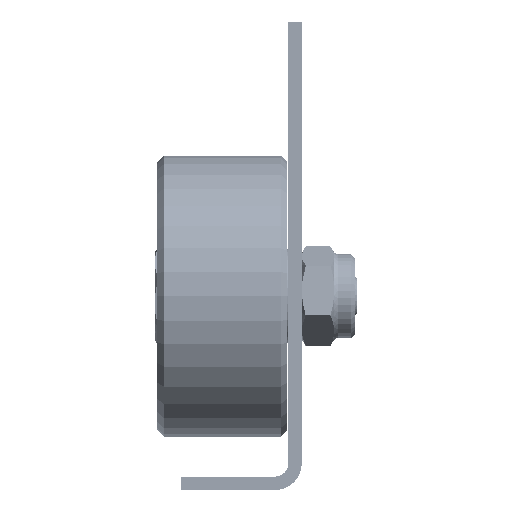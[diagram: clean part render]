
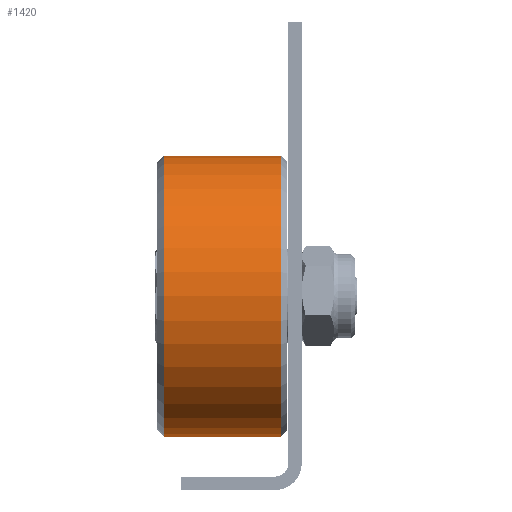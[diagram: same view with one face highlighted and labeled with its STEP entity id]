
A CAD part, front view. The second image highlights one B-rep face of the part: STEP entity #1420.
In plain terms, the highlighted cylindrical face has radius 21 mm (diameter 42 mm), a full revolution.
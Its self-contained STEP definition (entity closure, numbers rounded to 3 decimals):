
#1420 = ADVANCED_FACE( '', ( #2434, #2435 ), #2436, .T. );
#2434 = FACE_OUTER_BOUND( '', #3640, .T. );
#2435 = FACE_OUTER_BOUND( '', #3641, .T. );
#2436 = CYLINDRICAL_SURFACE( '', #3642, 21. );
#3640 = EDGE_LOOP( '', ( #4857 ) );
#3641 = EDGE_LOOP( '', ( #4858 ) );
#3642 = AXIS2_PLACEMENT_3D( '', #4859, #4860, #4861 );
#4857 = ORIENTED_EDGE( '', *, *, #7485, .T. );
#4858 = ORIENTED_EDGE( '', *, *, #7486, .T. );
#4859 = CARTESIAN_POINT( '', ( 0., -9.75, 0. ) );
#4860 = DIRECTION( '', ( 0., -1., 0. ) );
#4861 = DIRECTION( '', ( 0., 0., 1. ) );
#7485 = EDGE_CURVE( '', #8512, #8512, #8513, .F. );
#7486 = EDGE_CURVE( '', #8514, #8514, #8515, .T. );
#8512 = VERTEX_POINT( '', #10045 );
#8513 = CIRCLE( '', #10046, 21. );
#8514 = VERTEX_POINT( '', #10047 );
#8515 = CIRCLE( '', #10048, 21. );
#10045 = CARTESIAN_POINT( '', ( 0., 8.75, 21. ) );
#10046 = AXIS2_PLACEMENT_3D( '', #12208, #12209, #12210 );
#10047 = CARTESIAN_POINT( '', ( 0., -8.75, 21. ) );
#10048 = AXIS2_PLACEMENT_3D( '', #12211, #12212, #12213 );
#12208 = CARTESIAN_POINT( '', ( 0., 8.75, 0. ) );
#12209 = DIRECTION( '', ( 0., 1., 0. ) );
#12210 = DIRECTION( '', ( 0., 0., 1. ) );
#12211 = CARTESIAN_POINT( '', ( 0., -8.75, 0. ) );
#12212 = DIRECTION( '', ( 0., 1., 0. ) );
#12213 = DIRECTION( '', ( 0., 0., 1. ) );
